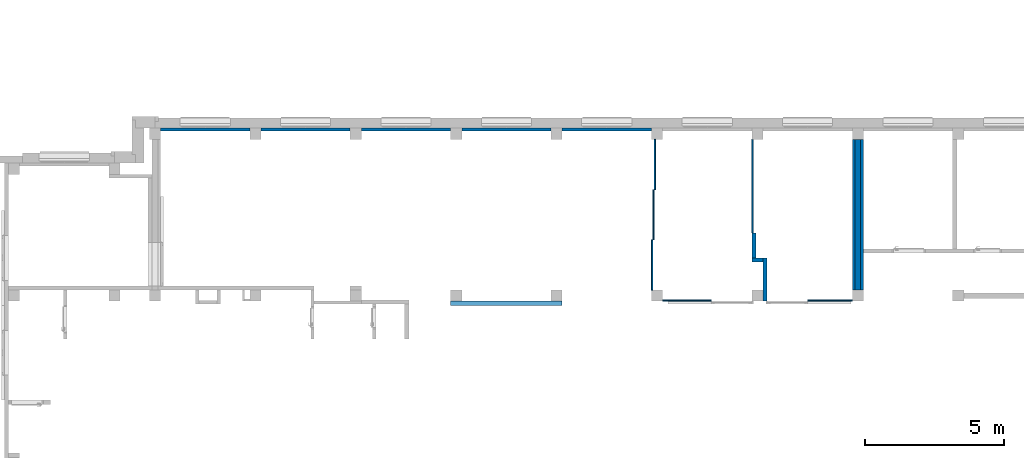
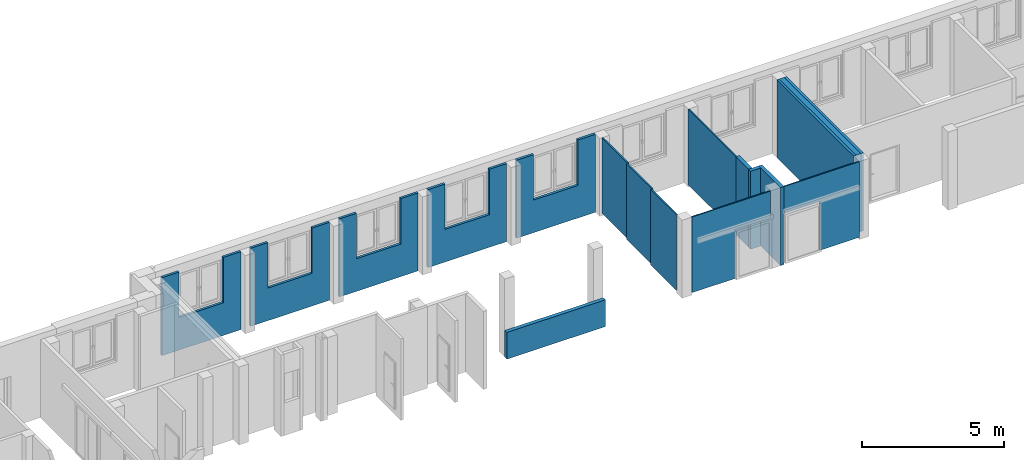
# One storey, part 22 of 37: 18 walls, 7 openings.
"""IFC4 building model written with IfcOpenShell, lengths in metres."""

import ifcopenshell
import ifcopenshell.guid

model = None  # the IFC model being written
_history = None  # IfcOwnerHistory: only IFC2X3 demands one
_inside = {}  # id of a spatial element -> (the spatial element, [elements in it])
_under = {}  # id of a project, library or spatial element -> (it, [spatial elements below it])
_declared = {}  # id of a project -> (the project, [libraries it declares])
_typed = {}  # id of a type object -> (the type object, [elements of that type])
_made_of = {}  # id of a material, layer set ... -> (it, [elements and type objects made of it])


def new_model(schema):
    """Start an empty IFC model of exactly this schema.

    Asked for "IFC4X3", IfcOpenShell would pick the latest addendum, in which some entities
    have other attributes; the version numbers below select the first issue.
    IFC2X3 requires an IfcOwnerHistory on every rooted entity: one is made here for all.
    """
    global model, _history
    if schema == "IFC4X3":
        model = ifcopenshell.file(schema_version=(4, 3, 0, 0))
    else:
        model = ifcopenshell.file(schema=schema)
    _inside.clear()
    _under.clear()
    _declared.clear()
    _typed.clear()
    _made_of.clear()
    _history = None
    if model.schema == "IFC2X3":
        org = make("IfcOrganization", Name="unknown")
        user = make(
            "IfcPersonAndOrganization",
            ThePerson=make("IfcPerson", FamilyName="unknown"),
            TheOrganization=org,
        )
        app = make(
            "IfcApplication",
            ApplicationDeveloper=org,
            Version="unknown",
            ApplicationFullName="unknown",
            ApplicationIdentifier="unknown",
        )
        _history = make(
            "IfcOwnerHistory",
            OwningUser=user,
            OwningApplication=app,
            ChangeAction="ADDED",
            CreationDate=0,
        )
    return model


def make(cls, **values):
    """One entity of the class cls with the attributes given. An attribute that is None is left unset."""
    return model.create_entity(
        cls, **{name: value for name, value in values.items() if value is not None}
    )


def entity(cls, *values):
    """Any entity or typed value of the class cls, its attributes in the order of the schema. None: left unset."""
    e = model.create_entity(cls)
    for i, value in enumerate(values):
        if value is not None:
            e[i] = value
    return e


def rooted(cls, **values):
    """An entity with a GlobalId (a new one), such as an element, a storey or a relation."""
    return make(cls, GlobalId=ifcopenshell.guid.new(), OwnerHistory=_history, **values)


def si_unit(unit_type, name, prefix=None):
    """IfcSIUnit, for example si_unit("LENGTHUNIT", "METRE", prefix="MILLI")."""
    return make("IfcSIUnit", UnitType=unit_type, Prefix=prefix, Name=name)


def converted_unit(unit_type, name, factor, base, dimensions=None, offset=None):
    """IfcConversionBasedUnit, such as the inch: factor (a typed value) times the base unit."""
    return make(
        "IfcConversionBasedUnit"
        if offset is None
        else "IfcConversionBasedUnitWithOffset",
        ConversionOffset=offset,
        Dimensions=None
        if dimensions is None
        else entity("IfcDimensionalExponents", *dimensions),
        UnitType=unit_type,
        Name=name,
        ConversionFactor=make(
            "IfcMeasureWithUnit", ValueComponent=factor, UnitComponent=base
        ),
    )


def derived_unit(unit_type, elements):
    """IfcDerivedUnit: a product of units, each with its exponent."""
    return make(
        "IfcDerivedUnit",
        Elements=[
            make("IfcDerivedUnitElement", Unit=unit, Exponent=power)
            for unit, power in elements
        ],
        UnitType=unit_type,
    )


def assignment(units):
    """IfcUnitAssignment: the units of a project."""
    return None if units is None else make("IfcUnitAssignment", Units=units)


def point(xyz):
    """IfcCartesianPoint."""
    return None if xyz is None else make("IfcCartesianPoint", Coordinates=xyz)


def direction(xyz):
    """IfcDirection."""
    return None if xyz is None else make("IfcDirection", DirectionRatios=xyz)


def frame(location, z_axis=None, x_axis=None):
    """IfcAxis2Placement3D, a coordinate frame: its origin and axes. An axis left out is left unset."""
    return make(
        "IfcAxis2Placement3D",
        Location=point(location),
        Axis=direction(z_axis),
        RefDirection=direction(x_axis),
    )


def frame_2d(location, x_axis=None):
    """IfcAxis2Placement2D, a coordinate frame in the plane: its origin and x axis."""
    return make(
        "IfcAxis2Placement2D", Location=point(location), RefDirection=direction(x_axis)
    )


def origin():
    """The frame at (0, 0, 0) with its axes left unset."""
    return frame((0.0, 0.0, 0.0))


def origin_with_axes():
    """The frame at (0, 0, 0) with the z axis (0, 0, 1) and the x axis (1, 0, 0) written out."""
    return frame((0.0, 0.0, 0.0), z_axis=(0.0, 0.0, 1.0), x_axis=(1.0, 0.0, 0.0))


def place(relative_to, where):
    """IfcLocalPlacement: puts the frame where relative to a parent placement (None: the world)."""
    return make(
        "IfcLocalPlacement", PlacementRelTo=relative_to, RelativePlacement=where
    )


def context(
    kind, dimensions, precision=None, world=None, true_north=None, identifier=None
):
    """IfcGeometricRepresentationContext, for example the 3D "Model" context."""
    return make(
        "IfcGeometricRepresentationContext",
        ContextIdentifier=identifier,
        ContextType=kind,
        CoordinateSpaceDimension=dimensions,
        Precision=precision,
        WorldCoordinateSystem=world,
        TrueNorth=true_north,
    )


def subcontext(parent, identifier, kind, view, scale=None):
    """IfcGeometricRepresentationSubContext, for example "Body" below "Model"."""
    return make(
        "IfcGeometricRepresentationSubContext",
        ContextIdentifier=identifier,
        ContextType=kind,
        ParentContext=parent,
        TargetScale=scale,
        TargetView=view,
    )


def project(units=None, contexts=None):
    """IfcProject with its units and contexts."""
    return rooted(
        "IfcProject",
        Name="project",
        RepresentationContexts=contexts,
        UnitsInContext=assignment(units),
    )


def spatial(cls, under=None, at=None, **own):
    """A site, building, storey or space (cls), placed at a placement, below another one or the project."""
    s = rooted(cls, ObjectPlacement=at, **own)
    if under is not None:
        _under.setdefault(under.id(), (under, []))[1].append(s)
    return s


def polyline(points):
    """IfcPolyline through the points."""
    return make("IfcPolyline", Points=[point(p) for p in points])


def profile(cls, at=None, kind="AREA", **sizes):
    """A parametric profile (cls). Its sizes go by their IFC names, for example OverallWidth=200.0."""
    return make(cls, ProfileType=kind, Position=at, **sizes)


def rectangle(**sizes):
    """IfcRectangleProfileDef."""
    return profile("IfcRectangleProfileDef", **sizes)


def outline(outer, holes=None, kind="AREA"):
    """IfcArbitraryClosedProfileDef: a profile drawn as a closed curve; with holes, ...WithVoids."""
    if holes is None:
        return make("IfcArbitraryClosedProfileDef", ProfileType=kind, OuterCurve=outer)
    return make(
        "IfcArbitraryProfileDefWithVoids",
        ProfileType=kind,
        OuterCurve=outer,
        InnerCurves=holes,
    )


def extrude(swept, where, along, depth):
    """IfcExtrudedAreaSolid: the profile swept, set in the frame where, extruded along a direction by depth."""
    return make(
        "IfcExtrudedAreaSolid",
        SweptArea=swept,
        Position=where,
        ExtrudedDirection=direction(along),
        Depth=depth,
    )


def shape(context_of_items, identifier, shape_type, items):
    """IfcShapeRepresentation: the items that make up one representation, for example the "Body"."""
    return make(
        "IfcShapeRepresentation",
        ContextOfItems=context_of_items,
        RepresentationIdentifier=identifier,
        RepresentationType=shape_type,
        Items=items,
    )


def material(Name=None, Category=None):
    """IfcMaterial."""
    return make("IfcMaterial", Name=Name, Category=Category)


def layer(
    of_material, thickness, ventilated=None, Name=None, Category=None, Priority=None
):
    """IfcMaterialLayer: one layer of a wall or slab, of a material (None: an air gap)."""
    return make(
        "IfcMaterialLayer",
        Material=of_material,
        LayerThickness=thickness,
        IsVentilated=ventilated,
        Name=Name,
        Category=Category,
        Priority=Priority,
    )


def layer_set(layers, Name=None):
    """IfcMaterialLayerSet."""
    return make("IfcMaterialLayerSet", MaterialLayers=layers, LayerSetName=Name)


def layer_usage(for_layer_set, set_direction, sense, offset, extent=None):
    """IfcMaterialLayerSetUsage: how a layer set lies in its element."""
    return make(
        "IfcMaterialLayerSetUsage",
        ForLayerSet=for_layer_set,
        LayerSetDirection=set_direction,
        DirectionSense=sense,
        OffsetFromReferenceLine=offset,
        ReferenceExtent=extent,
    )


def made_of(thing, what):
    """Note that an element or type object is made of a material, layer set ...; save() writes the relation."""
    if what is not None:
        _made_of.setdefault(what.id(), (what, []))[1].append(thing)
    return thing


def element(
    cls,
    number,
    at=None,
    inside=None,
    cuts=None,
    type_object=None,
    material=None,
    context=None,
    identifier="Body",
    shape_type=None,
    held_by="IfcProductDefinitionShape",
    body=None,
    shapes=None,
    **own,
):
    """One element of the class cls, such as IfcWall. Its Tag is "e" and its number.

    at: its placement. inside: the storey or other place that contains it. cuts: it is an
    opening in that element (IfcRelVoidsElement). A single representation is given by context,
    identifier, shape_type and body (its items); several are given by shapes. held_by: the class
    of the entity that holds the representations. save() writes the other relations.
    """
    e = rooted(cls, Tag="e%d" % number, ObjectPlacement=at, **own)
    if body is not None:
        shapes = [shape(context, identifier, shape_type, body)]
    if shapes is not None:
        e.Representation = make(held_by, Representations=shapes)
    if inside is not None:
        _inside.setdefault(inside.id(), (inside, []))[1].append(e)
    if cuts is not None:
        rooted(
            "IfcRelVoidsElement", RelatingBuildingElement=cuts, RelatedOpeningElement=e
        )
    if type_object is not None:
        _typed.setdefault(type_object.id(), (type_object, []))[1].append(e)
    return made_of(e, material)


def aggregate(whole, parts):
    """IfcRelAggregates: a whole, such as a stair, and the parts it consists of."""
    return rooted("IfcRelAggregates", RelatingObject=whole, RelatedObjects=parts)


def save(model, path):
    """Write the relations noted so far, then the file.

    IfcRelAggregates (storeys below a building ...), IfcRelContainedInSpatialStructure (elements
    in a storey), IfcRelDefinesByType, IfcRelAssociatesMaterial and IfcRelDeclares: one each for
    every whole, place, type object, material and project.
    """
    for whole, parts in _under.values():
        aggregate(whole, parts)
    for where, things in _inside.values():
        rooted(
            "IfcRelContainedInSpatialStructure",
            RelatedElements=things,
            RelatingStructure=where,
        )
    for kind, things in _typed.values():
        rooted("IfcRelDefinesByType", RelatedObjects=things, RelatingType=kind)
    for what, things in _made_of.values():
        rooted("IfcRelAssociatesMaterial", RelatedObjects=things, RelatingMaterial=what)
    for by, libraries in _declared.values():
        rooted("IfcRelDeclares", RelatingContext=by, RelatedDefinitions=libraries)
    model.write(path)


model = new_model("IFC4")

# Units and contexts
model_context = context("Model", 3, precision=1e-05, world=origin())
body_context = subcontext(model_context, "Body", "Model", "MODEL_VIEW")
ifc_project = project(units=[si_unit("LENGTHUNIT", "METRE"), si_unit("AREAUNIT", "SQUARE_METRE"), si_unit("VOLUMEUNIT", "CUBIC_METRE"), si_unit("MASSUNIT", "GRAM", prefix="KILO"), converted_unit("PLANEANGLEUNIT", "DEGREE", entity("IfcPlaneAngleMeasure", 0.0174532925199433), si_unit("PLANEANGLEUNIT", "RADIAN"), dimensions=[0, 0, 0, 0, 0, 0, 0]), derived_unit("THERMALTRANSMITTANCEUNIT", [(si_unit("POWERUNIT", "WATT"), 1), (si_unit("THERMODYNAMICTEMPERATUREUNIT", "KELVIN"), -1), (si_unit("LENGTHUNIT", "METRE"), -2)]), derived_unit("VOLUMETRICFLOWRATEUNIT", [(si_unit("LENGTHUNIT", "METRE"), 3), (converted_unit("TIMEUNIT", "hour", entity("IfcTimeMeasure", 3600.0), si_unit("TIMEUNIT", "SECOND"), dimensions=[0, 0, 1, 0, 0, 0, 0]), -1), (si_unit("LENGTHUNIT", "METRE"), -1)])], contexts=[model_context])

# Site, building, storey
site_placement = place(None, origin())
site = spatial("IfcSite", under=ifc_project, at=site_placement, Name="3. ASŘ", CompositionType="ELEMENT")
building_placement = place(site_placement, origin())
building = spatial("IfcBuilding", under=site, at=building_placement, Name="Pavilon B", CompositionType="ELEMENT")
storey_placement = place(building_placement, origin())
storey = spatial("IfcBuildingStorey", under=building, at=storey_placement, Name="Půdorys 1.NP", CompositionType="ELEMENT", Elevation=0.0)

# Wall
ifc_material_1 = material(Name="ZELEZOBETONOVÁ KCE")
ifc_layer_1 = layer(ifc_material_1, 0.2)
ifc_layer_set_1 = layer_set([ifc_layer_1])
ifc_layer_usage_1 = layer_usage(ifc_layer_set_1, "AXIS2", "POSITIVE", -0.1)
wall_1_placement = place(storey_placement, frame((74.2, -16.0, -0.1), z_axis=(0.0, 0.0, 1.0), x_axis=(0.0, -1.0, 0.0)))
element("IfcWall", 1, at=wall_1_placement, inside=storey, material=ifc_layer_usage_1, Name="ZELEZOBETONOVÁ KCE", context=body_context, shape_type="SweptSolid", body=[
    extrude(rectangle(XDim=5.4, YDim=0.2, at=frame_2d((2.7, 0.1), x_axis=(1.0, 0.0))), origin_with_axes(), (0.0, 0.0, 1.0), 3.35),
])

# Wall, opening
ifc_material_2 = material(Name="PÓROBETONOVÉ ZDIVO")
ifc_layer_2 = layer(ifc_material_2, 0.1)
ifc_layer_set_2 = layer_set([ifc_layer_2])
ifc_layer_usage_2 = layer_usage(ifc_layer_set_2, "AXIS2", "POSITIVE", 0.0)
wall_2_placement = place(storey_placement, frame((63.3, -15.6, -0.1), z_axis=(0.0, 0.0, 1.0), x_axis=(-1.0, 0.0, 0.0)))
wall_2 = element("IfcWall", 2, at=wall_2_placement, inside=storey, material=ifc_layer_usage_2, Name="PÓROBETONOVÉ ZDIVO", context=body_context, shape_type="SweptSolid", body=[
    extrude(rectangle(XDim=3.2, YDim=0.1, at=frame_2d((1.6, 0.05), x_axis=(1.0, 0.0))), origin_with_axes(), (0.0, 0.0, 1.0), 3.35),
])
opening_1_placement = place(wall_2_placement, frame((2.5, 0.1, 1.4), z_axis=(0.0, -1.0, 0.0), x_axis=(0.0, 0.0, 1.0)))
element("IfcOpeningElement", 3, at=opening_1_placement, cuts=wall_2, Name="Okenní otvor", ObjectType="Opening", context=body_context, shape_type="SweptSolid", body=[
    extrude(outline(polyline([(0.0, 1.8), (1.95, 1.8), (1.95, 0.0), (0.0, 0.0), (0.0, 1.8)])), origin_with_axes(), (0.0, 0.0, 1.0), 0.1),
])

ifc_material_3 = material(Name="PÓROBETONOVÉ ZDIVO")
ifc_layer_3 = layer(ifc_material_3, 0.1)
ifc_layer_set_3 = layer_set([ifc_layer_3])
ifc_layer_usage_3 = layer_usage(ifc_layer_set_3, "AXIS2", "POSITIVE", 0.0)
wall_3_placement = place(storey_placement, frame((56.1, -15.6, -0.1), z_axis=(0.0, 0.0, 1.0), x_axis=(-1.0, 0.0, 0.0)))
wall_3 = element("IfcWall", 4, at=wall_3_placement, inside=storey, material=ifc_layer_usage_3, Name="PÓROBETONOVÉ ZDIVO", context=body_context, shape_type="SweptSolid", body=[
    extrude(rectangle(XDim=3.2, YDim=0.1, at=frame_2d((1.6, 0.05), x_axis=(1.0, 0.0))), origin_with_axes(), (0.0, 0.0, 1.0), 3.35),
])
opening_2_placement = place(wall_3_placement, frame((2.5, 0.1, 1.4), z_axis=(0.0, -1.0, 0.0), x_axis=(0.0, 0.0, 1.0)))
element("IfcOpeningElement", 5, at=opening_2_placement, cuts=wall_3, Name="Okenní otvor", ObjectType="Opening", context=body_context, shape_type="SweptSolid", body=[
    extrude(outline(polyline([(0.0, 1.8), (1.95, 1.8), (1.95, 0.0), (0.0, 0.0), (0.0, 1.8)])), origin_with_axes(), (0.0, 0.0, 1.0), 0.1),
])

ifc_material_4 = material(Name="PÓROBETONOVÉ ZDIVO")
ifc_layer_4 = layer(ifc_material_4, 0.1)
ifc_layer_set_4 = layer_set([ifc_layer_4])
ifc_layer_usage_4 = layer_usage(ifc_layer_set_4, "AXIS2", "POSITIVE", 0.0)
wall_4_placement = place(storey_placement, frame((66.9, -15.6, -0.1), z_axis=(0.0, 0.0, 1.0), x_axis=(-1.0, 0.0, 0.0)))
wall_4 = element("IfcWall", 6, at=wall_4_placement, inside=storey, material=ifc_layer_usage_4, Name="PÓROBETONOVÉ ZDIVO", context=body_context, shape_type="SweptSolid", body=[
    extrude(rectangle(XDim=3.2, YDim=0.1, at=frame_2d((1.6, 0.05), x_axis=(1.0, 0.0))), origin_with_axes(), (0.0, 0.0, 1.0), 3.35),
])
opening_3_placement = place(wall_4_placement, frame((2.5, 0.1, 1.4), z_axis=(0.0, -1.0, 0.0), x_axis=(0.0, 0.0, 1.0)))
element("IfcOpeningElement", 7, at=opening_3_placement, cuts=wall_4, Name="Okenní otvor", ObjectType="Opening", context=body_context, shape_type="SweptSolid", body=[
    extrude(outline(polyline([(0.0, 1.8), (1.95, 1.8), (1.95, 0.0), (0.0, 0.0), (0.0, 1.8)])), origin_with_axes(), (0.0, 0.0, 1.0), 0.1),
])

ifc_material_5 = material(Name="PÓROBETONOVÉ ZDIVO")
ifc_layer_5 = layer(ifc_material_5, 0.1)
ifc_layer_set_5 = layer_set([ifc_layer_5])
ifc_layer_usage_5 = layer_usage(ifc_layer_set_5, "AXIS2", "POSITIVE", 0.0)
wall_5_placement = place(storey_placement, frame((52.5, -15.6, -0.1), z_axis=(0.0, 0.0, 1.0), x_axis=(-1.0, 0.0, 0.0)))
wall_5 = element("IfcWall", 8, at=wall_5_placement, inside=storey, material=ifc_layer_usage_5, Name="PÓROBETONOVÉ ZDIVO", context=body_context, shape_type="SweptSolid", body=[
    extrude(rectangle(XDim=3.2, YDim=0.1, at=frame_2d((1.6, 0.05), x_axis=(1.0, 0.0))), origin_with_axes(), (0.0, 0.0, 1.0), 3.35),
])
opening_4_placement = place(wall_5_placement, frame((2.5, 0.1, 1.4), z_axis=(0.0, -1.0, 0.0), x_axis=(0.0, 0.0, 1.0)))
element("IfcOpeningElement", 9, at=opening_4_placement, cuts=wall_5, Name="Okenní otvor", ObjectType="Opening", context=body_context, shape_type="SweptSolid", body=[
    extrude(outline(polyline([(0.0, 1.8), (1.95, 1.8), (1.95, 0.0), (0.0, 0.0), (0.0, 1.8)])), origin_with_axes(), (0.0, 0.0, 1.0), 0.1),
])

ifc_material_6 = material(Name="PÓROBETONOVÉ ZDIVO")
ifc_layer_6 = layer(ifc_material_6, 0.1)
ifc_layer_set_6 = layer_set([ifc_layer_6])
ifc_layer_usage_6 = layer_usage(ifc_layer_set_6, "AXIS2", "POSITIVE", 0.0)
wall_6_placement = place(storey_placement, frame((59.7, -15.6, -0.1), z_axis=(0.0, 0.0, 1.0), x_axis=(-1.0, 0.0, 0.0)))
wall_6 = element("IfcWall", 10, at=wall_6_placement, inside=storey, material=ifc_layer_usage_6, Name="PÓROBETONOVÉ ZDIVO", context=body_context, shape_type="SweptSolid", body=[
    extrude(rectangle(XDim=3.2, YDim=0.1, at=frame_2d((1.6, 0.05), x_axis=(1.0, 0.0))), origin_with_axes(), (0.0, 0.0, 1.0), 3.35),
])
opening_5_placement = place(wall_6_placement, frame((2.5, 0.1, 1.4), z_axis=(0.0, -1.0, 0.0), x_axis=(0.0, 0.0, 1.0)))
element("IfcOpeningElement", 11, at=opening_5_placement, cuts=wall_6, Name="Okenní otvor", ObjectType="Opening", context=body_context, shape_type="SweptSolid", body=[
    extrude(outline(polyline([(0.0, 1.8), (1.95, 1.8), (1.95, 0.0), (0.0, 0.0), (0.0, 1.8)])), origin_with_axes(), (0.0, 0.0, 1.0), 0.1),
])

# Walls
ifc_material_7 = material(Name="YTONG 150")
ifc_layer_7 = layer(ifc_material_7, 0.15)
ifc_layer_set_7 = layer_set([ifc_layer_7])
ifc_layer_usage_7 = layer_usage(ifc_layer_set_7, "AXIS2", "POSITIVE", 0.0)
wall_7_placement = place(storey_placement, frame((59.7, -21.95, -0.1)))
element("IfcWall", 12, at=wall_7_placement, inside=storey, material=ifc_layer_usage_7, Name="YTONG 150", context=body_context, shape_type="SweptSolid", body=[
    extrude(rectangle(XDim=4.0, YDim=0.15, at=frame_2d((2.0, 0.075), x_axis=(1.0, 0.0))), origin_with_axes(), (0.0, 0.0, 1.0), 1.15),
])
ifc_material_8 = material(Name="YTONG 150")
ifc_layer_8 = layer(ifc_material_8, 0.15)
ifc_layer_set_8 = layer_set([ifc_layer_8])
ifc_layer_usage_8 = layer_usage(ifc_layer_set_8, "AXIS2", "POSITIVE", 0.0)
wall_8_placement = place(storey_placement, frame((70.9, -20.25, -0.1), z_axis=(0.0, 0.0, 1.0), x_axis=(0.0, -1.0, 0.0)))
element("IfcWall", 13, at=wall_8_placement, inside=storey, material=ifc_layer_usage_8, Name="YTONG 150", context=body_context, shape_type="SweptSolid", body=[
    extrude(rectangle(XDim=1.55, YDim=0.15, at=frame_2d((0.775, 0.075), x_axis=(1.0, 0.0))), origin_with_axes(), (0.0, 0.0, 1.0), 3.35),
])
ifc_material_9 = material(Name="YTONG 150")
ifc_layer_9 = layer(ifc_material_9, 0.15)
ifc_layer_set_9 = layer_set([ifc_layer_9])
ifc_layer_usage_9 = layer_usage(ifc_layer_set_9, "AXIS2", "POSITIVE", 0.0)
wall_9_placement = place(storey_placement, frame((70.5, -20.4, -0.1)))
element("IfcWall", 14, at=wall_9_placement, inside=storey, material=ifc_layer_usage_9, Name="YTONG 150", context=body_context, shape_type="SweptSolid", body=[
    extrude(rectangle(XDim=0.4, YDim=0.15, at=frame_2d((0.2, 0.075), x_axis=(1.0, 0.0))), origin_with_axes(), (0.0, 0.0, 1.0), 3.35),
])
ifc_material_10 = material(Name="YTONG 150")
ifc_layer_10 = layer(ifc_material_10, 0.15)
ifc_layer_set_10 = layer_set([ifc_layer_10])
ifc_layer_usage_10 = layer_usage(ifc_layer_set_10, "AXIS2", "POSITIVE", 0.0)
wall_10_placement = place(storey_placement, frame((70.5, -19.35, -0.1), z_axis=(0.0, 0.0, 1.0), x_axis=(0.0, -1.0, 0.0)))
element("IfcWall", 15, at=wall_10_placement, inside=storey, material=ifc_layer_usage_10, Name="YTONG 150", context=body_context, shape_type="SweptSolid", body=[
    extrude(rectangle(XDim=0.9, YDim=0.15, at=frame_2d((0.45, 0.075), x_axis=(1.0, 0.0))), origin_with_axes(), (0.0, 0.0, 1.0), 3.35),
])

# Wall, opening
ifc_material_11 = material(Name="PROSKLENÁ PŘÍČKA JEDNODUCHÁ")
ifc_layer_11 = layer(ifc_material_11, 0.05)
ifc_layer_set_11 = layer_set([ifc_layer_11])
ifc_layer_usage_11 = layer_usage(ifc_layer_set_11, "AXIS2", "POSITIVE", 0.0)
wall_11_placement = place(storey_placement, frame((71.05, -21.8, 0.0)))
wall_11 = element("IfcWall", 16, at=wall_11_placement, inside=storey, material=ifc_layer_usage_11, Name="PROSKLENÁ PŘÍČKA JEDNODUCHÁ", context=body_context, shape_type="SweptSolid", body=[
    extrude(rectangle(XDim=3.05, YDim=0.05, at=frame_2d((1.525, 0.025), x_axis=(1.0, 0.0))), origin_with_axes(), (0.0, 0.0, 1.0), 3.25),
])
opening_6_placement = place(wall_11_placement, frame((0.0, 0.0, 0.0), z_axis=(0.0, 1.0, 0.0), x_axis=(0.0, 0.0, 1.0)))
element("IfcOpeningElement", 17, at=opening_6_placement, cuts=wall_11, Name="Dveřní otvor", ObjectType="Opening", context=body_context, shape_type="SweptSolid", body=[
    extrude(outline(polyline([(0.0, 1.45), (2.1, 1.45), (2.1, 0.0), (0.0, 0.0), (0.0, 1.45)])), origin_with_axes(), (0.0, 0.0, 1.0), 0.05),
])

ifc_material_12 = material(Name="PROSKLENÁ PŘÍČKA JEDNODUCHÁ")
ifc_layer_12 = layer(ifc_material_12, 0.05)
ifc_layer_set_12 = layer_set([ifc_layer_12])
ifc_layer_usage_12 = layer_usage(ifc_layer_set_12, "AXIS2", "POSITIVE", 0.0)
wall_12_placement = place(storey_placement, frame((67.3, -21.8, 0.0)))
wall_12 = element("IfcWall", 18, at=wall_12_placement, inside=storey, material=ifc_layer_usage_12, Name="PROSKLENÁ PŘÍČKA JEDNODUCHÁ", context=body_context, shape_type="SweptSolid", body=[
    extrude(rectangle(XDim=3.2, YDim=0.05, at=frame_2d((1.6, 0.025), x_axis=(1.0, 0.0))), origin_with_axes(), (0.0, 0.0, 1.0), 3.25),
])
opening_7_placement = place(wall_12_placement, frame((1.75, 0.0, 0.0), z_axis=(0.0, 1.0, 0.0), x_axis=(0.0, 0.0, 1.0)))
element("IfcOpeningElement", 19, at=opening_7_placement, cuts=wall_12, Name="Dveřní otvor", ObjectType="Opening", context=body_context, shape_type="SweptSolid", body=[
    extrude(outline(polyline([(0.0, 1.45), (2.1, 1.45), (2.1, 0.0), (0.0, 0.0), (0.0, 1.45)])), origin_with_axes(), (0.0, 0.0, 1.0), 0.05),
])

# Walls
ifc_material_13 = material(Name="PROSKLENÁ PŘÍČKA JEDNODUCHÁ")
ifc_layer_13 = layer(ifc_material_13, 0.05)
ifc_layer_set_13 = layer_set([ifc_layer_13])
ifc_layer_usage_13 = layer_usage(ifc_layer_set_13, "AXIS2", "POSITIVE", 0.0)
wall_13_placement = place(storey_placement, frame((70.5, -16.0, 0.0), z_axis=(0.0, 0.0, 1.0), x_axis=(0.0, -1.0, 0.0)))
element("IfcWall", 20, at=wall_13_placement, inside=storey, material=ifc_layer_usage_13, Name="PROSKLENÁ PŘÍČKA JEDNODUCHÁ", context=body_context, shape_type="SweptSolid", body=[
    extrude(rectangle(XDim=3.35, YDim=0.05, at=frame_2d((1.675, 0.025), x_axis=(1.0, 0.0))), origin_with_axes(), (0.0, 0.0, 1.0), 3.25),
])
ifc_material_14 = material(Name="PROSKLENÁ PŘÍČKA JEDNODUCHÁ")
ifc_layer_14 = layer(ifc_material_14, 0.05)
ifc_layer_set_14 = layer_set([ifc_layer_14])
ifc_layer_usage_14 = layer_usage(ifc_layer_set_14, "AXIS2", "POSITIVE", 0.0)
wall_14_placement = place(storey_placement, frame((66.9, -19.6, 0.0), z_axis=(0.0, 0.0, 1.0), x_axis=(0.0, -1.0, 0.0)))
element("IfcWall", 21, at=wall_14_placement, inside=storey, material=ifc_layer_usage_14, Name="PROSKLENÁ PŘÍČKA JEDNODUCHÁ", context=body_context, shape_type="SweptSolid", body=[
    extrude(rectangle(XDim=1.8, YDim=0.05, at=frame_2d((0.9, 0.025), x_axis=(1.0, 0.0))), origin_with_axes(), (0.0, 0.0, 1.0), 3.25),
])
ifc_material_15 = material(Name="PROSKLENÁ PŘÍČKA JEDNODUCHÁ")
ifc_layer_15 = layer(ifc_material_15, 0.05)
ifc_layer_set_15 = layer_set([ifc_layer_15])
ifc_layer_usage_15 = layer_usage(ifc_layer_set_15, "AXIS2", "POSITIVE", 0.0)
wall_15_placement = place(storey_placement, frame((66.95, -17.8, 0.0), z_axis=(0.0, 0.0, 1.0), x_axis=(0.0, -1.0, 0.0)))
element("IfcWall", 22, at=wall_15_placement, inside=storey, material=ifc_layer_usage_15, Name="PROSKLENÁ PŘÍČKA JEDNODUCHÁ", context=body_context, shape_type="SweptSolid", body=[
    extrude(rectangle(XDim=1.8, YDim=0.05, at=frame_2d((0.9, 0.025), x_axis=(1.0, 0.0))), origin_with_axes(), (0.0, 0.0, 1.0), 3.25),
])
ifc_material_16 = material(Name="PROSKLENÁ PŘÍČKA JEDNODUCHÁ")
ifc_layer_16 = layer(ifc_material_16, 0.05)
ifc_layer_set_16 = layer_set([ifc_layer_16])
ifc_layer_usage_16 = layer_usage(ifc_layer_set_16, "AXIS2", "POSITIVE", 0.0)
wall_16_placement = place(storey_placement, frame((67.0, -16.0, 0.0), z_axis=(0.0, 0.0, 1.0), x_axis=(0.0, -1.0, 0.0)))
element("IfcWall", 23, at=wall_16_placement, inside=storey, material=ifc_layer_usage_16, Name="PROSKLENÁ PŘÍČKA JEDNODUCHÁ", context=body_context, shape_type="SweptSolid", body=[
    extrude(rectangle(XDim=1.8, YDim=0.05, at=frame_2d((0.9, 0.025), x_axis=(1.0, 0.0))), origin_with_axes(), (0.0, 0.0, 1.0), 3.25),
])
ifc_material_17 = material(Name="PÓROBETONOVÉ ZDIVO")
ifc_layer_17 = layer(ifc_material_17, 0.1)
ifc_layer_set_17 = layer_set([ifc_layer_17])
ifc_layer_usage_17 = layer_usage(ifc_layer_set_17, "AXIS2", "POSITIVE", 0.0)
wall_17_placement = place(storey_placement, frame((74.2, -21.4, -0.1), z_axis=(0.0, 0.0, 1.0), x_axis=(0.0, 1.0, 0.0)))
element("IfcWall", 24, at=wall_17_placement, inside=storey, material=ifc_layer_usage_17, Name="PÓROBETONOVÉ ZDIVO", context=body_context, shape_type="SweptSolid", body=[
    extrude(rectangle(XDim=5.4, YDim=0.1, at=frame_2d((2.7, 0.05), x_axis=(1.0, 0.0))), origin_with_axes(), (0.0, 0.0, 1.0), 3.35),
])
ifc_material_18 = material(Name="PÓROBETONOVÉ ZDIVO")
ifc_layer_18 = layer(ifc_material_18, 0.1)
ifc_layer_set_18 = layer_set([ifc_layer_18])
ifc_layer_usage_18 = layer_usage(ifc_layer_set_18, "AXIS2", "POSITIVE", 0.0)
wall_18_placement = place(storey_placement, frame((74.4, -16.0, -0.1), z_axis=(0.0, 0.0, 1.0), x_axis=(0.0, -1.0, 0.0)))
element("IfcWall", 25, at=wall_18_placement, inside=storey, material=ifc_layer_usage_18, Name="PÓROBETONOVÉ ZDIVO", context=body_context, shape_type="SweptSolid", body=[
    extrude(rectangle(XDim=5.4, YDim=0.1, at=frame_2d((2.7, 0.05), x_axis=(1.0, 0.0))), origin_with_axes(), (0.0, 0.0, 1.0), 3.35),
])

save(model, "model.ifc")
